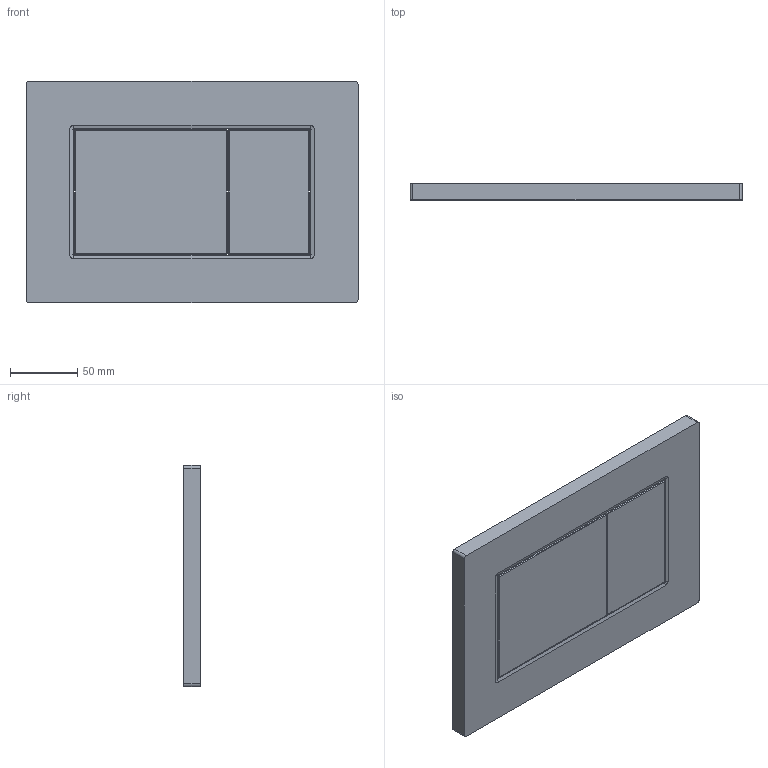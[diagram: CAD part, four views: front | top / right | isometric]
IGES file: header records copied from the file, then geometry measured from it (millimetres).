
Global section: file name: 115660; native system: Autodesk Inventor 2023; preprocessor: unknown; author: JANAN; date: 20240424.134302; units: millimetre
Bounding box: 246 x 12 x 164 mm (x, y, z)
Volume: 476065.4 mm3; surface area: 103755.4 mm2
Topology: 3 solids, 3 shells, 62 faces, 144 edges, 80 vertices
Faces by surface type: bspline 62
